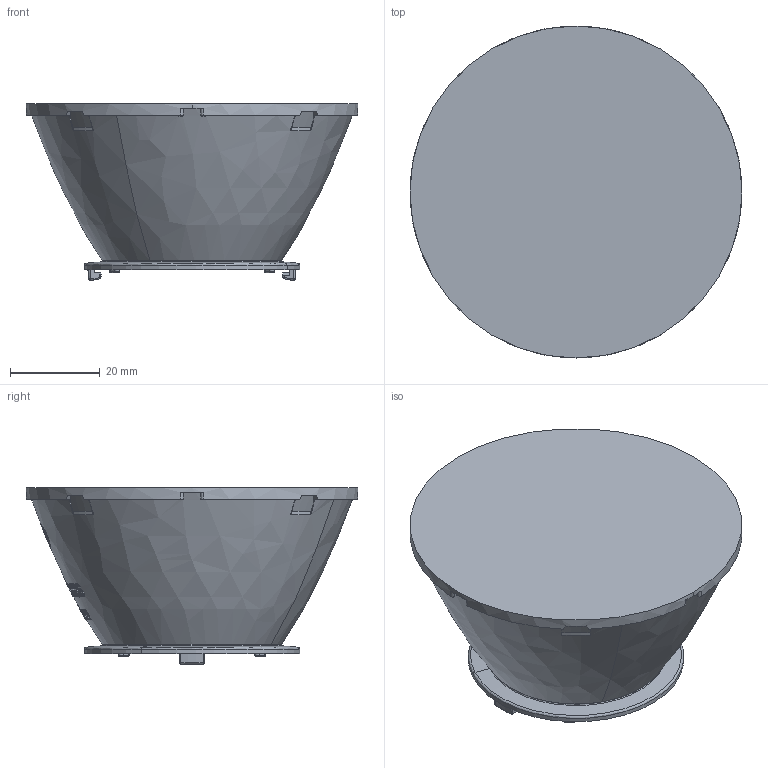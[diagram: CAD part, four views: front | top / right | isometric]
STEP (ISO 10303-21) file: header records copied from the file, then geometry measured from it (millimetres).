
FILE_DESCRIPTION(('CAx-IF Rec.Pracs.---Model Styling and Organization---1.2---2011-12-15','CAx-IF Rec.Pracs.---Geometric and Assembly Validation Properties---4.3---2015-07-16','CAx-IF Rec.Pracs.---Representation and Presentation of Product Manufacturing Information (PMI)---4.0.3---2016-08-25'),'2;1');
FILE_NAME('022YJ06Y04.stp','2022-05-06T06:42:21+02:00',(''),(''),'STEP Interface 4.5 by CT CoreTechnologie','3D_Evolution4.5 by CT CoreTechnologie','');
FILE_SCHEMA(('AP203_CONFIGURATION_CONTROLLED_3D_DESIGN_OF_MECHANICAL_PARTS_AND_ASSEMBLIES_MIM_LF'));
Length unit declared in the file: millimetre
Products named in the file (1): NONE
Bounding box: 74 x 74 x 39.25 mm (x, y, z)
Volume: 100051.6 mm3; surface area: 14358.4 mm2
Topology: 1 solids, 1 shells, 352 faces, 891 edges, 578 vertices
Faces by surface type: plane 162, bspline 142, cylinder 48
Entity records: 60474 total; most frequent: CARTESIAN_POINT 17700, PROPERTY_DEFINITION 5684, SHAPE_REPRESENTATION 2843, SHAPE_DEFINITION_REPRESENTATION 2843, INTEGER_REPRESENTATION_ITEM 2842, REPRESENTATION 2842, SHAPE_ASPECT 2842, ID_ATTRIBUTE 2842
